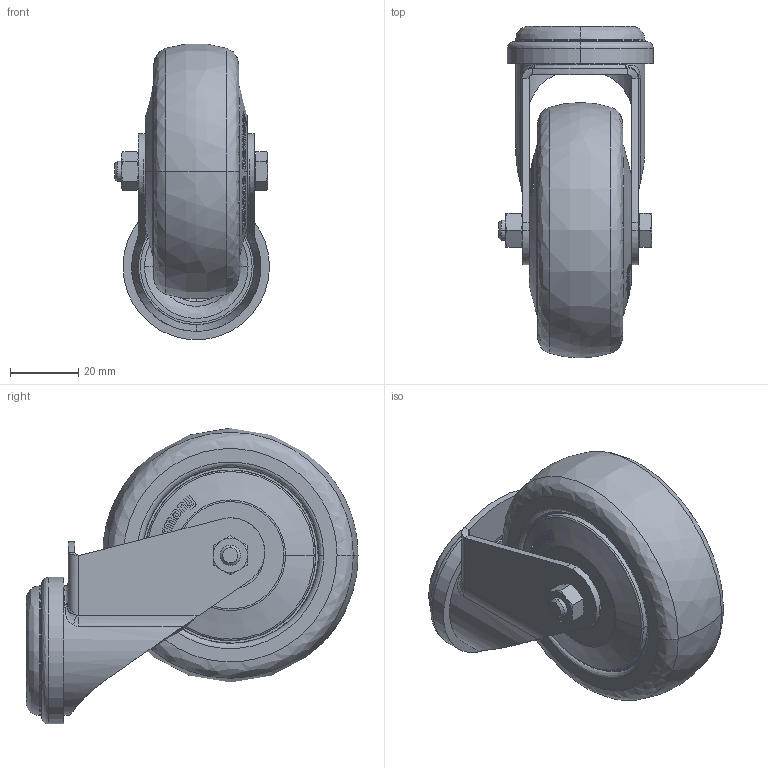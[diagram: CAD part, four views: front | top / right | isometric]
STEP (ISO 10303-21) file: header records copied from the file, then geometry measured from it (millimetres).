
FILE_DESCRIPTION (( 'STEP AP203' ), '1' );
FILE_NAME ('10315_LEN75.STEP', '2018-03-22T13:40:13', ( '' ), ( '' ), 'SwSTEP 2.0', 'SolidWorks 2017', '' );
FILE_SCHEMA (( 'CONFIG_CONTROL_DESIGN' ));
Length unit declared in the file: millimetre
Products named in the file (4): AM_LRA_08x30_G_G15; 10315_LEN75; TPA-K-FK_G15_TPA_75_6K-FK; GH-LRA075_G15
Assembly tree (3 placements, depth 2):
  10315_LEN75
    TPA-K-FK_G15_TPA_75_6K-FK
    GH-LRA075_G15
    AM_LRA_08x30_G_G15
Bounding box: 45.5 x 97.5 x 86.84 mm (x, y, z)
Volume: 132224.7 mm3; surface area: 29809.3 mm2
Topology: 3 solids, 3 shells, 923 faces, 2403 edges, 1573 vertices
Faces by surface type: plane 501, bspline 284, cone 91, cylinder 47
Entity records: 48000 total; most frequent: CARTESIAN_POINT 27866, ORIENTED_EDGE 4806, DIRECTION 2810, EDGE_CURVE 2403, VERTEX_POINT 1573, VECTOR 1102, LINE 1102, B_SPLINE_CURVE_WITH_KNOTS 1051
